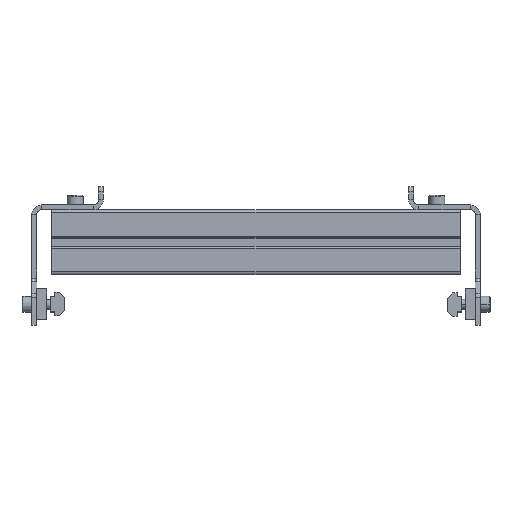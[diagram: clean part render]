
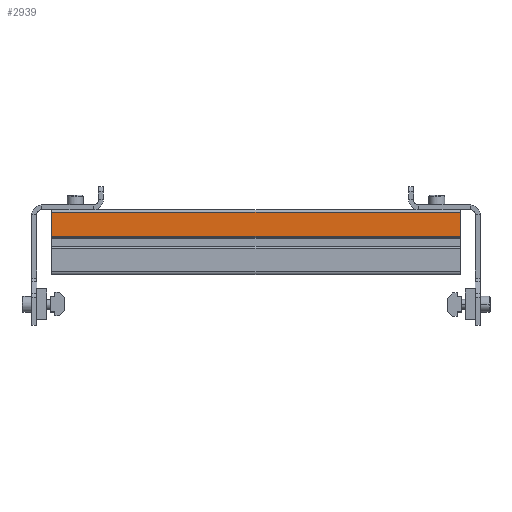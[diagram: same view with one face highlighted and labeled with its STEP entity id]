
A CAD part, top view. The second image highlights one B-rep face of the part: STEP entity #2939.
In plain terms, the highlighted planar face has unit normal (0, 0, 1) as drawn and (0, 1, 0) by its records, which use the part's own axes.
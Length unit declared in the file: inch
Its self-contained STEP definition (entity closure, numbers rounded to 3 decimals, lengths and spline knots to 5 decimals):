
#69 = VECTOR ( 'NONE', #3694, 39.37008 ) ;
#172 = EDGE_CURVE ( 'NONE', #4157, #8115, #6088, .T. ) ;
#335 = CARTESIAN_POINT ( 'NONE',  ( -0.14758, 0.441, 4.98 ) ) ;
#365 = DIRECTION ( 'NONE',  ( 1., 0., 0. ) ) ;
#488 = ORIENTED_EDGE ( 'NONE', *, *, #1049, .T. ) ;
#552 = LINE ( 'NONE', #1608, #1150 ) ;
#866 = LINE ( 'NONE', #5417, #2548 ) ;
#1012 = ORIENTED_EDGE ( 'NONE', *, *, #5655, .F. ) ;
#1049 = EDGE_CURVE ( 'NONE', #5506, #8115, #866, .T. ) ;
#1150 = VECTOR ( 'NONE', #365, 39.37008 ) ;
#1392 = VERTEX_POINT ( 'NONE', #1710 ) ;
#1510 = CARTESIAN_POINT ( 'NONE',  ( -0.725, 0.441, 4.98 ) ) ;
#1608 = CARTESIAN_POINT ( 'NONE',  ( 0.7875, 0.441, -4.98 ) ) ;
#1710 = CARTESIAN_POINT ( 'NONE',  ( -0.14758, 0.441, -4.98 ) ) ;
#1851 = LINE ( 'NONE', #3756, #5890 ) ;
#2460 = CARTESIAN_POINT ( 'NONE',  ( 0.7875, 0.441, 4.98 ) ) ;
#2548 = VECTOR ( 'NONE', #6605, 39.37008 ) ;
#2616 = EDGE_LOOP ( 'NONE', ( #1012, #7873, #488, #5737 ) ) ;
#2692 = CARTESIAN_POINT ( 'NONE',  ( -0.7875, 0.441, 75. ) ) ;
#2939 = ADVANCED_FACE ( 'NONE', ( #5535 ), #4894, .F. ) ;
#3081 = CARTESIAN_POINT ( 'NONE',  ( -0.725, 0.441, -4.98 ) ) ;
#3347 = DIRECTION ( 'NONE',  ( 0., -1., 0. ) ) ;
#3694 = DIRECTION ( 'NONE',  ( -1., 0., 0. ) ) ;
#3756 = CARTESIAN_POINT ( 'NONE',  ( -0.14758, 0.441, -75. ) ) ;
#3979 = DIRECTION ( 'NONE',  ( 0., 0., -1. ) ) ;
#4157 = VERTEX_POINT ( 'NONE', #335 ) ;
#4894 = PLANE ( 'NONE',  #7707 ) ;
#5417 = CARTESIAN_POINT ( 'NONE',  ( -0.725, 0.441, 75. ) ) ;
#5506 = VERTEX_POINT ( 'NONE', #3081 ) ;
#5535 = FACE_OUTER_BOUND ( 'NONE', #2616, .T. ) ;
#5655 = EDGE_CURVE ( 'NONE', #1392, #4157, #1851, .T. ) ;
#5737 = ORIENTED_EDGE ( 'NONE', *, *, #172, .F. ) ;
#5890 = VECTOR ( 'NONE', #7059, 39.37008 ) ;
#6088 = LINE ( 'NONE', #2460, #69 ) ;
#6142 = EDGE_CURVE ( 'NONE', #5506, #1392, #552, .T. ) ;
#6605 = DIRECTION ( 'NONE',  ( 0., 0., 1. ) ) ;
#7059 = DIRECTION ( 'NONE',  ( 0., 0., 1. ) ) ;
#7707 = AXIS2_PLACEMENT_3D ( 'NONE', #2692, #3347, #3979 ) ;
#7873 = ORIENTED_EDGE ( 'NONE', *, *, #6142, .F. ) ;
#8115 = VERTEX_POINT ( 'NONE', #1510 ) ;
